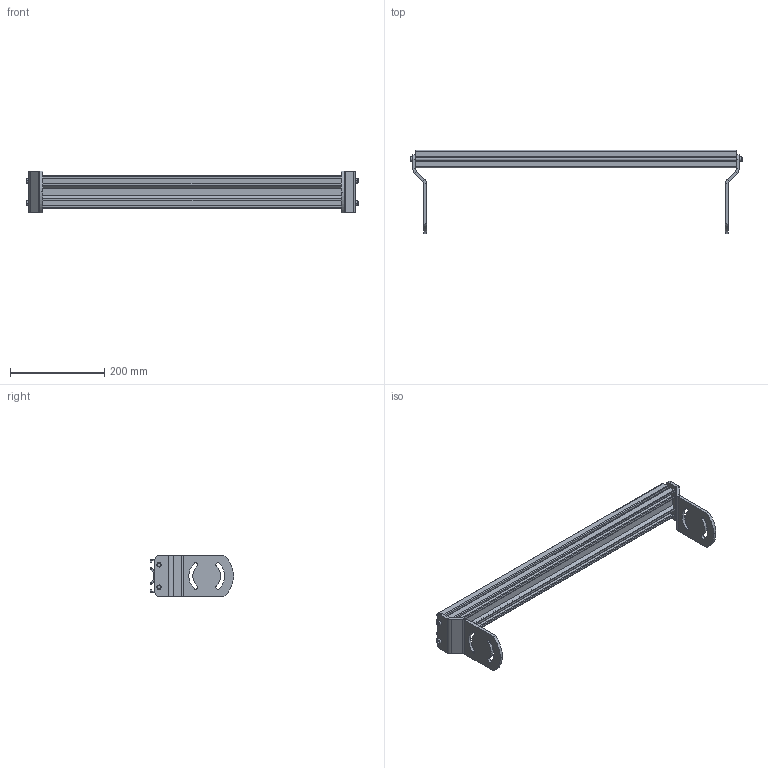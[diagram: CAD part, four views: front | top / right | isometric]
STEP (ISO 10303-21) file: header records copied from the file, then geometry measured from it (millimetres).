
FILE_DESCRIPTION((''),'2;1');
FILE_NAME('39MCM24-2_ASM','2023-03-01T',('jenni.wallner'),(''),'PRO/ENGINEER BY PARAMETRIC TECHNOLOGY CORPORATION, 2012420','PRO/ENGINEER BY PARAMETRIC TECHNOLOGY CORPORATION, 2012420','');
FILE_SCHEMA(('CONFIG_CONTROL_DESIGN'));
Length unit declared in the file: inch
Products named in the file (5): 710210_02679; 300825M; 708180P; 39MCM24-2_ASM_ASM; 39MCM24-2_ASM
Assembly tree (8 placements, depth 3):
  39MCM24-2_ASM
    39MCM24-2_ASM_ASM
      710210_02679
      300825M  x2
      708180P  x4
Bounding box: 705.17 x 176.65 x 88.93 mm (x, y, z)
Volume: 660105.2 mm3; surface area: 470404.2 mm2
Topology: 7 solids, 7 shells, 256 faces, 702 edges, 468 vertices
Faces by surface type: plane 144, cylinder 92, cone 20
Entity records: 5052 total; most frequent: CARTESIAN_POINT 890, DIRECTION 863, ORIENTED_EDGE 836, EDGE_CURVE 418, VECTOR 301, LINE 301, AXIS2_PLACEMENT_3D 281, VERTEX_POINT 276
